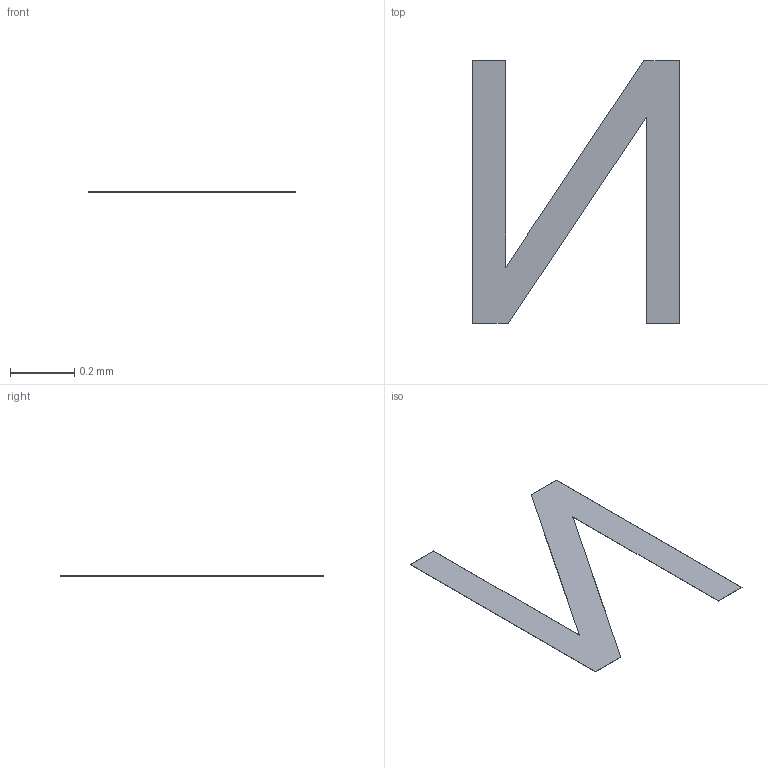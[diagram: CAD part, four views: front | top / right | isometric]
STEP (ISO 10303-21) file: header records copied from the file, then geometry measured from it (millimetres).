
FILE_DESCRIPTION(/* description */ ('STEP AP242 Edition 2','CAx-IF Rec.Pracs.---Representation and Presentation of Product Manufacturing Information (PMI)---4.0---2014-10-13','CAx-IF Rec.Pracs.---3D Tessellated Geometry---0.4---2014-09-14','2;1','CAx-IF Rec.Pracs.---User Defined Attributes---1.5---2016-08-15'),/* implementation_level */ '2;1');
FILE_NAME(/* name */ 'Drone Layout - Surface 351',/* time_stamp */ '2026-10-04T22:22:57Z',/* author */ (''),/* organization */ (''),/* preprocessor_version */ 'ST-DEVELOPER v20',/* originating_system */ 'ONSHAPE BY PTC INC, 1.221',/* authorisation */ ' ');
FILE_SCHEMA (('AP242_MANAGED_MODEL_BASED_3D_ENGINEERING_MIM_LF { 1 0 10303 442 3 1 4 }'));
Length unit declared in the file: metre
Products named in the file (1): VL53L0X:1__Body23
Bounding box: 0.64 x 0.82 x 0 mm (x, y, z)
Volume: 0 mm3; surface area: 0.5 mm2
Topology: 1 solids, 1 shells, 12 faces, 30 edges, 20 vertices
Faces by surface type: plane 12
Entity records: 367 total; most frequent: CARTESIAN_POINT 63, ORIENTED_EDGE 60, DIRECTION 56, EDGE_CURVE 30, LINE 30, VECTOR 30, VERTEX_POINT 20, AXIS2_PLACEMENT_3D 13
